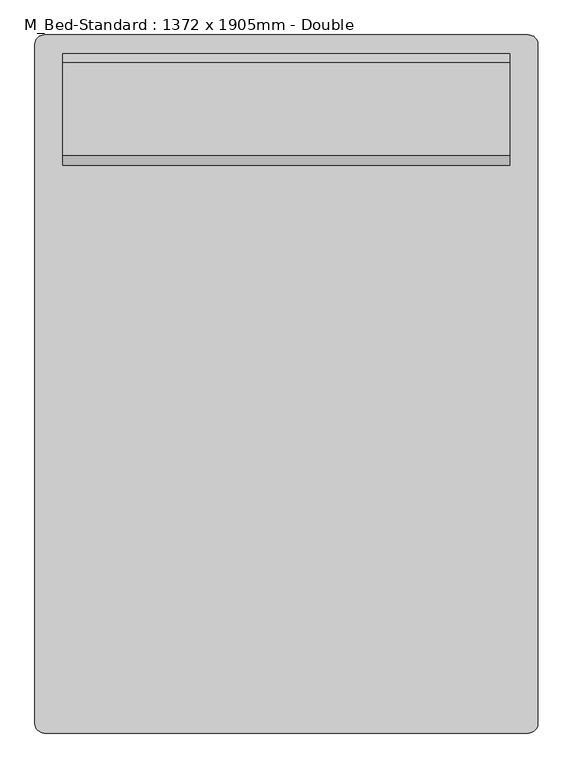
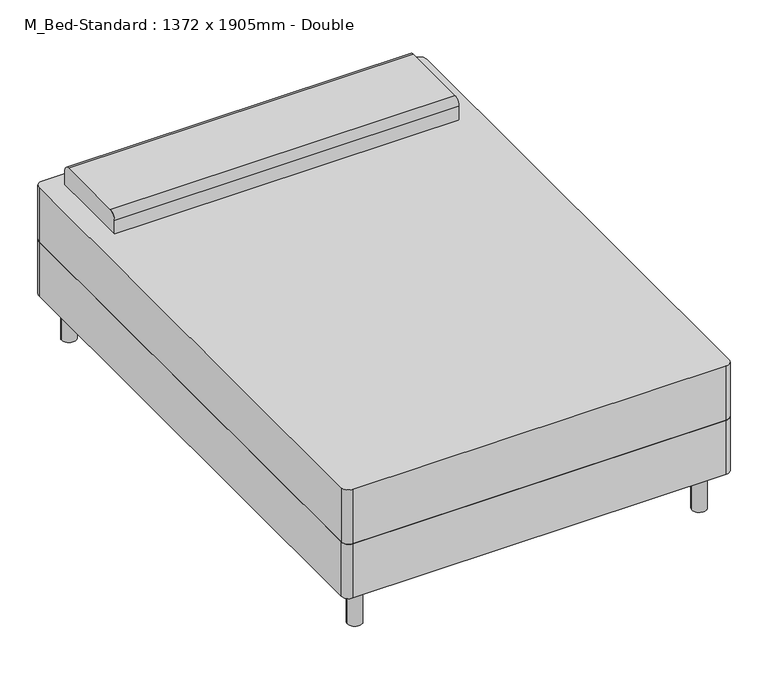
"""IFC4 building model written with IfcOpenShell, lengths in millimetres: furniture geometry, M_Bed-Standard : 1372 x 1905mm - Double."""

import ifcopenshell
import ifcopenshell.guid

model = None  # the IFC model being written
_history = None  # IfcOwnerHistory: only IFC2X3 demands one
_inside = {}  # id of a spatial element -> (the spatial element, [elements in it])
_under = {}  # id of a project, library or spatial element -> (it, [spatial elements below it])
_declared = {}  # id of a project -> (the project, [libraries it declares])
_typed = {}  # id of a type object -> (the type object, [elements of that type])
_made_of = {}  # id of a material, layer set ... -> (it, [elements and type objects made of it])


def new_model(schema):
    """Start an empty IFC model of exactly this schema.

    Asked for "IFC4X3", IfcOpenShell would pick the latest addendum, in which some entities
    have other attributes; the version numbers below select the first issue.
    IFC2X3 requires an IfcOwnerHistory on every rooted entity: one is made here for all.
    """
    global model, _history
    if schema == "IFC4X3":
        model = ifcopenshell.file(schema_version=(4, 3, 0, 0))
    else:
        model = ifcopenshell.file(schema=schema)
    _inside.clear()
    _under.clear()
    _declared.clear()
    _typed.clear()
    _made_of.clear()
    _history = None
    if model.schema == "IFC2X3":
        org = make("IfcOrganization", Name="unknown")
        user = make(
            "IfcPersonAndOrganization",
            ThePerson=make("IfcPerson", FamilyName="unknown"),
            TheOrganization=org,
        )
        app = make(
            "IfcApplication",
            ApplicationDeveloper=org,
            Version="unknown",
            ApplicationFullName="unknown",
            ApplicationIdentifier="unknown",
        )
        _history = make(
            "IfcOwnerHistory",
            OwningUser=user,
            OwningApplication=app,
            ChangeAction="ADDED",
            CreationDate=0,
        )
    return model


def make(cls, **values):
    """One entity of the class cls with the attributes given. An attribute that is None is left unset."""
    return model.create_entity(
        cls, **{name: value for name, value in values.items() if value is not None}
    )


def rooted(cls, **values):
    """An entity with a GlobalId (a new one), such as an element, a storey or a relation."""
    return make(cls, GlobalId=ifcopenshell.guid.new(), OwnerHistory=_history, **values)


def si_unit(unit_type, name, prefix=None):
    """IfcSIUnit, for example si_unit("LENGTHUNIT", "METRE", prefix="MILLI")."""
    return make("IfcSIUnit", UnitType=unit_type, Prefix=prefix, Name=name)


def assignment(units):
    """IfcUnitAssignment: the units of a project."""
    return None if units is None else make("IfcUnitAssignment", Units=units)


def point(xyz):
    """IfcCartesianPoint."""
    return None if xyz is None else make("IfcCartesianPoint", Coordinates=xyz)


def direction(xyz):
    """IfcDirection."""
    return None if xyz is None else make("IfcDirection", DirectionRatios=xyz)


def frame(location, z_axis=None, x_axis=None):
    """IfcAxis2Placement3D, a coordinate frame: its origin and axes. An axis left out is left unset."""
    return make(
        "IfcAxis2Placement3D",
        Location=point(location),
        Axis=direction(z_axis),
        RefDirection=direction(x_axis),
    )


def frame_2d(location, x_axis=None):
    """IfcAxis2Placement2D, a coordinate frame in the plane: its origin and x axis."""
    return make(
        "IfcAxis2Placement2D", Location=point(location), RefDirection=direction(x_axis)
    )


def origin():
    """The frame at (0, 0, 0) with its axes left unset."""
    return frame((0.0, 0.0, 0.0))


def origin_with_axes():
    """The frame at (0, 0, 0) with the z axis (0, 0, 1) and the x axis (1, 0, 0) written out."""
    return frame((0.0, 0.0, 0.0), z_axis=(0.0, 0.0, 1.0), x_axis=(1.0, 0.0, 0.0))


def place(relative_to, where):
    """IfcLocalPlacement: puts the frame where relative to a parent placement (None: the world)."""
    return make(
        "IfcLocalPlacement", PlacementRelTo=relative_to, RelativePlacement=where
    )


def context(
    kind, dimensions, precision=None, world=None, true_north=None, identifier=None
):
    """IfcGeometricRepresentationContext, for example the 3D "Model" context."""
    return make(
        "IfcGeometricRepresentationContext",
        ContextIdentifier=identifier,
        ContextType=kind,
        CoordinateSpaceDimension=dimensions,
        Precision=precision,
        WorldCoordinateSystem=world,
        TrueNorth=true_north,
    )


def project(units=None, contexts=None):
    """IfcProject with its units and contexts."""
    return rooted(
        "IfcProject",
        Name="project",
        RepresentationContexts=contexts,
        UnitsInContext=assignment(units),
    )


def spatial(cls, under=None, at=None, **own):
    """A site, building, storey or space (cls), placed at a placement, below another one or the project."""
    s = rooted(cls, ObjectPlacement=at, **own)
    if under is not None:
        _under.setdefault(under.id(), (under, []))[1].append(s)
    return s


def polyline(points):
    """IfcPolyline through the points."""
    return make("IfcPolyline", Points=[point(p) for p in points])


def circle_curve(where, radius):
    """IfcCircle in the frame where."""
    return make("IfcCircle", Position=where, Radius=radius)


def trimmed(basis, trim1, trim2, sense, master):
    """IfcTrimmedCurve: the piece of a basis curve between two trims."""
    return make(
        "IfcTrimmedCurve",
        BasisCurve=basis,
        Trim1=trim1,
        Trim2=trim2,
        SenseAgreement=sense,
        MasterRepresentation=master,
    )


def segment(curve, same_sense, transition):
    """IfcCompositeCurveSegment."""
    return make(
        "IfcCompositeCurveSegment",
        Transition=transition,
        SameSense=same_sense,
        ParentCurve=curve,
    )


def composite_curve(segments, self_intersect=None):
    """IfcCompositeCurve: segments joined end to end."""
    return make("IfcCompositeCurve", Segments=segments, SelfIntersect=self_intersect)


def outline(outer, holes=None, kind="AREA"):
    """IfcArbitraryClosedProfileDef: a profile drawn as a closed curve; with holes, ...WithVoids."""
    if holes is None:
        return make("IfcArbitraryClosedProfileDef", ProfileType=kind, OuterCurve=outer)
    return make(
        "IfcArbitraryProfileDefWithVoids",
        ProfileType=kind,
        OuterCurve=outer,
        InnerCurves=holes,
    )


def extrude(swept, where, along, depth):
    """IfcExtrudedAreaSolid: the profile swept, set in the frame where, extruded along a direction by depth."""
    return make(
        "IfcExtrudedAreaSolid",
        SweptArea=swept,
        Position=where,
        ExtrudedDirection=direction(along),
        Depth=depth,
    )


def shape(context_of_items, identifier, shape_type, items):
    """IfcShapeRepresentation: the items that make up one representation, for example the "Body"."""
    return make(
        "IfcShapeRepresentation",
        ContextOfItems=context_of_items,
        RepresentationIdentifier=identifier,
        RepresentationType=shape_type,
        Items=items,
    )


def source(mapping_origin, context_of_items, identifier, shape_type, items):
    """IfcRepresentationMap: a shape defined once, which mapped items show again and again."""
    return make(
        "IfcRepresentationMap",
        MappingOrigin=mapping_origin,
        MappedRepresentation=shape(context_of_items, identifier, shape_type, items),
    )


def transform(
    local_origin,
    x_axis=None,
    y_axis=None,
    z_axis=None,
    scale=None,
    scale2=None,
    scale3=None,
    uniform=True,
):
    """IfcCartesianTransformationOperator3D, or its non-uniform kind. x_axis, y_axis, z_axis: its Axis1, 2, 3."""
    if uniform:
        return make(
            "IfcCartesianTransformationOperator3D",
            Axis1=direction(x_axis),
            Axis2=direction(y_axis),
            LocalOrigin=point(local_origin),
            Scale=scale,
            Axis3=direction(z_axis),
        )
    return make(
        "IfcCartesianTransformationOperator3DnonUniform",
        Axis1=direction(x_axis),
        Axis2=direction(y_axis),
        LocalOrigin=point(local_origin),
        Scale=scale,
        Axis3=direction(z_axis),
        Scale2=scale2,
        Scale3=scale3,
    )


def mapped(mapping_source, mapping_target):
    """IfcMappedItem: shows the shape of a source again, moved by a transform."""
    return make(
        "IfcMappedItem", MappingSource=mapping_source, MappingTarget=mapping_target
    )


def made_of(thing, what):
    """Note that an element or type object is made of a material, layer set ...; save() writes the relation."""
    if what is not None:
        _made_of.setdefault(what.id(), (what, []))[1].append(thing)
    return thing


def element(
    cls,
    number,
    at=None,
    inside=None,
    cuts=None,
    type_object=None,
    material=None,
    context=None,
    identifier="Body",
    shape_type=None,
    held_by="IfcProductDefinitionShape",
    body=None,
    shapes=None,
    **own,
):
    """One element of the class cls, such as IfcWall. Its Tag is "e" and its number.

    at: its placement. inside: the storey or other place that contains it. cuts: it is an
    opening in that element (IfcRelVoidsElement). A single representation is given by context,
    identifier, shape_type and body (its items); several are given by shapes. held_by: the class
    of the entity that holds the representations. save() writes the other relations.
    """
    e = rooted(cls, Tag="e%d" % number, ObjectPlacement=at, **own)
    if body is not None:
        shapes = [shape(context, identifier, shape_type, body)]
    if shapes is not None:
        e.Representation = make(held_by, Representations=shapes)
    if inside is not None:
        _inside.setdefault(inside.id(), (inside, []))[1].append(e)
    if cuts is not None:
        rooted(
            "IfcRelVoidsElement", RelatingBuildingElement=cuts, RelatedOpeningElement=e
        )
    if type_object is not None:
        _typed.setdefault(type_object.id(), (type_object, []))[1].append(e)
    return made_of(e, material)


def aggregate(whole, parts):
    """IfcRelAggregates: a whole, such as a stair, and the parts it consists of."""
    return rooted("IfcRelAggregates", RelatingObject=whole, RelatedObjects=parts)


def save(model, path):
    """Write the relations noted so far, then the file.

    IfcRelAggregates (storeys below a building ...), IfcRelContainedInSpatialStructure (elements
    in a storey), IfcRelDefinesByType, IfcRelAssociatesMaterial and IfcRelDeclares: one each for
    every whole, place, type object, material and project.
    """
    for whole, parts in _under.values():
        aggregate(whole, parts)
    for where, things in _inside.values():
        rooted(
            "IfcRelContainedInSpatialStructure",
            RelatedElements=things,
            RelatingStructure=where,
        )
    for kind, things in _typed.values():
        rooted("IfcRelDefinesByType", RelatedObjects=things, RelatingType=kind)
    for what, things in _made_of.values():
        rooted("IfcRelAssociatesMaterial", RelatedObjects=things, RelatingMaterial=what)
    for by, libraries in _declared.values():
        rooted("IfcRelDeclares", RelatingContext=by, RelatedDefinitions=libraries)
    model.write(path)


def m_bed_standard_1372_x_1905mm_double_2dcc4a2e(model_context):
    return source(origin(), model_context, "Body", "SweptSolid", [
        extrude(outline(composite_curve([segment(polyline([(-414.5114754, -972.695082), (-414.5114754, 881.504918)]), True, "CONTINUOUS"), segment(trimmed(circle_curve(frame_2d((-389.1114754, 881.504918)), 25.4), [point((-414.5114754, 881.504918))], [point((-389.1114754, 906.904918))], False, "CARTESIAN"), True, "CONTINUOUS"), segment(polyline([(-389.1114754, 906.904918), (932.0885246, 906.904918)]), True, "CONTINUOUS"), segment(trimmed(circle_curve(frame_2d((932.0885246, 881.504918)), 25.4), [point((932.0885246, 906.904918))], [point((957.4885246, 881.504918))], False, "CARTESIAN"), True, "CONTINUOUS"), segment(polyline([(957.4885246, 881.504918), (957.4885246, -972.695082)]), True, "CONTINUOUS"), segment(trimmed(circle_curve(frame_2d((932.0885246, -972.695082)), 25.4), [point((957.4885246, -972.695082))], [point((932.0885246, -998.095082))], False, "CARTESIAN"), True, "CONTINUOUS"), segment(polyline([(932.0885246, -998.095082), (-389.1114754, -998.095082)]), True, "CONTINUOUS"), segment(trimmed(circle_curve(frame_2d((-389.1114754, -972.695082)), 25.4), [point((-389.1114754, -998.095082))], [point((-414.5114754, -972.695082))], False, "CARTESIAN"), True, "CONTINUOUS")], self_intersect=False)), frame((0.0, 0.0, 152.4), z_axis=(0.0, 0.0, 1.0), x_axis=(1.0, 0.0, 0.0)), (0.0, 0.0, 1.0), 203.2),
        extrude(outline(composite_curve([segment(polyline([(551.304918, 558.8), (551.304918, 609.6)]), True, "CONTINUOUS"), segment(trimmed(circle_curve(frame_2d((576.704918, 609.6)), 25.4), [point((551.304918, 609.6))], [point((576.704918, 635.0))], False, "CARTESIAN"), True, "CONTINUOUS"), segment(polyline([(576.704918, 635.0), (830.704918, 635.0)]), True, "CONTINUOUS"), segment(trimmed(circle_curve(frame_2d((830.704918, 609.6)), 25.4), [point((830.704918, 635.0))], [point((856.104918, 609.6))], False, "CARTESIAN"), True, "CONTINUOUS"), segment(polyline([(856.104918, 609.6), (856.104918, 558.8), (551.304918, 558.8)]), True, "CONTINUOUS")], self_intersect=False)), frame((-338.3114754, 0.0, 0.0), z_axis=(1.0, 0.0, 0.0), x_axis=(0.0, 1.0, 0.0)), (0.0, 0.0, 1.0), 1219.6),
        extrude(outline(composite_curve([segment(trimmed(circle_curve(frame_2d((-338.3114754, 830.704918)), 25.4), [point((-363.7114754, 830.704918))], [point((-312.9114754, 830.704918))], False, "CARTESIAN"), True, "CONTINUOUS"), segment(trimmed(circle_curve(frame_2d((-338.3114754, 830.704918)), 25.4), [point((-312.9114754, 830.704918))], [point((-363.7114754, 830.704918))], False, "CARTESIAN"), True, "CONTINUOUS")], self_intersect=False)), origin_with_axes(), (0.0, 0.0, 1.0), 152.4),
        extrude(outline(composite_curve([segment(trimmed(circle_curve(frame_2d((881.2885246, 830.704918)), 25.4), [point((855.8885246, 830.704918))], [point((906.6885246, 830.704918))], False, "CARTESIAN"), True, "CONTINUOUS"), segment(trimmed(circle_curve(frame_2d((881.2885246, 830.704918)), 25.4), [point((906.6885246, 830.704918))], [point((855.8885246, 830.704918))], False, "CARTESIAN"), True, "CONTINUOUS")], self_intersect=False)), origin_with_axes(), (0.0, 0.0, 1.0), 152.4),
        extrude(outline(composite_curve([segment(trimmed(circle_curve(frame_2d((881.2885246, -921.895082)), 25.4), [point((855.8885246, -921.895082))], [point((906.6885246, -921.895082))], False, "CARTESIAN"), True, "CONTINUOUS"), segment(trimmed(circle_curve(frame_2d((881.2885246, -921.895082)), 25.4), [point((906.6885246, -921.895082))], [point((855.8885246, -921.895082))], False, "CARTESIAN"), True, "CONTINUOUS")], self_intersect=False)), origin_with_axes(), (0.0, 0.0, 1.0), 152.4),
        extrude(outline(composite_curve([segment(trimmed(circle_curve(frame_2d((-338.3114754, -921.895082)), 25.4), [point((-363.7114754, -921.895082))], [point((-312.9114754, -921.895082))], False, "CARTESIAN"), True, "CONTINUOUS"), segment(trimmed(circle_curve(frame_2d((-338.3114754, -921.895082)), 25.4), [point((-312.9114754, -921.895082))], [point((-363.7114754, -921.895082))], False, "CARTESIAN"), True, "CONTINUOUS")], self_intersect=False)), origin_with_axes(), (0.0, 0.0, 1.0), 152.4),
        extrude(outline(composite_curve([segment(polyline([(-389.1114754, 906.904918), (932.0885246, 906.904918)]), True, "CONTINUOUS"), segment(trimmed(circle_curve(frame_2d((932.0885246, 881.504918)), 25.4), [point((932.0885246, 906.904918))], [point((957.4885246, 881.504918))], False, "CARTESIAN"), True, "CONTINUOUS"), segment(polyline([(957.4885246, 881.504918), (957.4885246, -972.695082)]), True, "CONTINUOUS"), segment(trimmed(circle_curve(frame_2d((932.0885246, -972.695082)), 25.4), [point((957.4885246, -972.695082))], [point((932.0885246, -998.095082))], False, "CARTESIAN"), True, "CONTINUOUS"), segment(polyline([(932.0885246, -998.095082), (-389.1114754, -998.095082)]), True, "CONTINUOUS"), segment(trimmed(circle_curve(frame_2d((-389.1114754, -972.695082)), 25.4), [point((-389.1114754, -998.095082))], [point((-414.5114754, -972.695082))], False, "CARTESIAN"), True, "CONTINUOUS"), segment(polyline([(-414.5114754, -972.695082), (-414.5114754, 881.504918)]), True, "CONTINUOUS"), segment(trimmed(circle_curve(frame_2d((-389.1114754, 881.504918)), 25.4), [point((-414.5114754, 881.504918))], [point((-389.1114754, 906.904918))], False, "CARTESIAN"), True, "CONTINUOUS")], self_intersect=False)), frame((0.0, 0.0, 355.6), z_axis=(0.0, 0.0, 1.0), x_axis=(1.0, 0.0, 0.0)), (0.0, 0.0, 1.0), 203.2),
    ])


if __name__ == "__main__":
    model = new_model("IFC4")
    model_context = context("Model", 3, world=origin())
    ifc_project = project(units=[si_unit("LENGTHUNIT", "METRE", prefix="MILLI")], contexts=[model_context])
    site = spatial("IfcSite", under=ifc_project)
    building = spatial("IfcBuilding", under=site)
    placement = place(None, origin())
    m_bed_standard_1372_x_1905mm_double_shape = m_bed_standard_1372_x_1905mm_double_2dcc4a2e(model_context)
    element("IfcFurniture", 1, ObjectType="M_Bed-Standard : 1372 x 1905mm - Double", at=placement, inside=building, context=model_context, shape_type="MappedRepresentation", body=[
        mapped(m_bed_standard_1372_x_1905mm_double_shape, transform((0.0, 0.0, 0.0), x_axis=(1.0, 0.0, 0.0), y_axis=(0.0, 1.0, 0.0), z_axis=(0.0, 0.0, 1.0))),
    ])
    save(model, "model.ifc")
